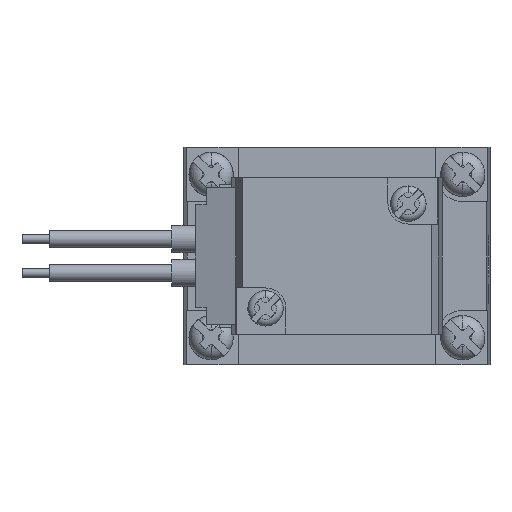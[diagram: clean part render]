
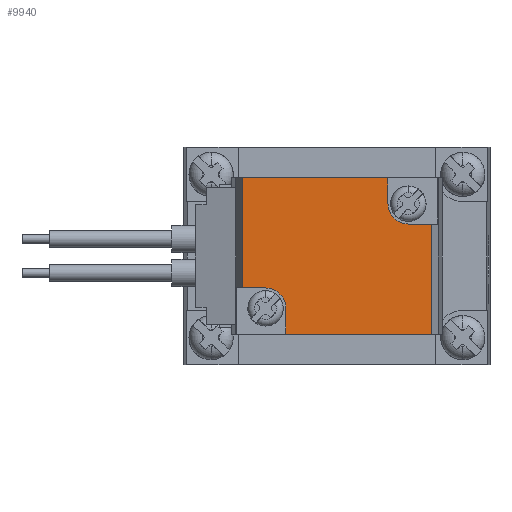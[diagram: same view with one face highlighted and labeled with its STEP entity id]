
A CAD part, left-side view. The second image highlights one B-rep face of the part: STEP entity #9940.
In plain terms, the highlighted planar face has unit normal (-1, 0, 0).
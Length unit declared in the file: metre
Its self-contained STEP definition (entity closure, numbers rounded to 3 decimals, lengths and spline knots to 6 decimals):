
#339 = CARTESIAN_POINT ( 'NONE',  ( -0.0978, 0.03, 0. ) ) ;
#690 = VECTOR ( 'NONE', #9377, 1. ) ;
#1838 = LINE ( 'NONE', #7402, #7997 ) ;
#1874 = VERTEX_POINT ( 'NONE', #11427 ) ;
#1912 = EDGE_CURVE ( 'NONE', #3841, #8298, #30259, .T. ) ;
#2202 = VERTEX_POINT ( 'NONE', #22054 ) ;
#2492 = CARTESIAN_POINT ( 'NONE',  ( -0.0978, 0.0225, 0.0115 ) ) ;
#2677 = DIRECTION ( 'NONE',  ( 0., 0., -1. ) ) ;
#3841 = VERTEX_POINT ( 'NONE', #22750 ) ;
#4031 = CARTESIAN_POINT ( 'NONE',  ( -0.0978, 0.0364, 0. ) ) ;
#4274 = VERTEX_POINT ( 'NONE', #12667 ) ;
#5382 = ORIENTED_EDGE ( 'NONE', *, *, #26608, .T. ) ;
#5626 = LINE ( 'NONE', #28870, #29748 ) ;
#5818 = CARTESIAN_POINT ( 'NONE',  ( -0.0978, 0.012, 0.0077 ) ) ;
#5822 = VECTOR ( 'NONE', #30120, 1. ) ;
#6329 = VERTEX_POINT ( 'NONE', #21715 ) ;
#6715 = DIRECTION ( 'NONE',  ( -1., 0., 0. ) ) ;
#7402 = CARTESIAN_POINT ( 'NONE',  ( -0.0978, 0.008598, 0. ) ) ;
#7997 = VECTOR ( 'NONE', #23733, 1. ) ;
#8007 = CIRCLE ( 'NONE', #13423, 0.003 ) ;
#8139 = DIRECTION ( 'NONE',  ( 0., 0., 1. ) ) ;
#8248 = FACE_OUTER_BOUND ( 'NONE', #16131, .T. ) ;
#8292 = CARTESIAN_POINT ( 'NONE',  ( -0.0978, 0.015, 0.0096 ) ) ;
#8295 = CARTESIAN_POINT ( 'NONE',  ( -0.0978, 0.033, -0.0077 ) ) ;
#8298 = VERTEX_POINT ( 'NONE', #29154 ) ;
#8324 = EDGE_CURVE ( 'NONE', #1874, #28893, #8007, .T. ) ;
#8689 = DIRECTION ( 'NONE',  ( 0., 0., -1. ) ) ;
#9029 = EDGE_CURVE ( 'NONE', #6329, #1874, #29931, .T. ) ;
#9377 = DIRECTION ( 'NONE',  ( 0., -1., 0. ) ) ;
#9576 = VECTOR ( 'NONE', #2677, 1. ) ;
#9839 = EDGE_CURVE ( 'NONE', #4274, #17973, #11170, .T. ) ;
#9940 = ADVANCED_FACE ( 'NONE', ( #8248 ), #20613, .T. ) ;
#10057 = ORIENTED_EDGE ( 'NONE', *, *, #25699, .T. ) ;
#10627 = DIRECTION ( 'NONE',  ( 0., 0., 1. ) ) ;
#11170 = LINE ( 'NONE', #17977, #29098 ) ;
#11226 = CARTESIAN_POINT ( 'NONE',  ( -0.0978, 0.008598, -0.0115 ) ) ;
#11427 = CARTESIAN_POINT ( 'NONE',  ( -0.0978, 0.033, -0.0047 ) ) ;
#11977 = LINE ( 'NONE', #8292, #29932 ) ;
#12667 = CARTESIAN_POINT ( 'NONE',  ( -0.0978, 0.03, -0.0115 ) ) ;
#12911 = VERTEX_POINT ( 'NONE', #15582 ) ;
#13423 = AXIS2_PLACEMENT_3D ( 'NONE', #8295, #24635, #10627 ) ;
#13760 = CARTESIAN_POINT ( 'NONE',  ( -0.0978, 0.022499, -0.0047 ) ) ;
#13916 = VECTOR ( 'NONE', #8689, 1. ) ;
#14295 = ORIENTED_EDGE ( 'NONE', *, *, #9839, .T. ) ;
#14332 = ORIENTED_EDGE ( 'NONE', *, *, #21005, .T. ) ;
#14457 = ORIENTED_EDGE ( 'NONE', *, *, #29446, .F. ) ;
#14652 = LINE ( 'NONE', #4031, #13916 ) ;
#14887 = DIRECTION ( 'NONE',  ( 0., 1., 0. ) ) ;
#15237 = AXIS2_PLACEMENT_3D ( 'NONE', #20718, #6715, #23051 ) ;
#15582 = CARTESIAN_POINT ( 'NONE',  ( -0.0978, 0.008598, 0.0047 ) ) ;
#16131 = EDGE_LOOP ( 'NONE', ( #17442, #28694, #10057, #14295, #30004, #14332, #19606, #14457, #16312, #5382 ) ) ;
#16312 = ORIENTED_EDGE ( 'NONE', *, *, #1912, .F. ) ;
#16980 = EDGE_CURVE ( 'NONE', #17973, #12911, #1838, .T. ) ;
#17104 = AXIS2_PLACEMENT_3D ( 'NONE', #5818, #22146, #8139 ) ;
#17442 = ORIENTED_EDGE ( 'NONE', *, *, #9029, .T. ) ;
#17973 = VERTEX_POINT ( 'NONE', #11226 ) ;
#17977 = CARTESIAN_POINT ( 'NONE',  ( -0.0978, 0.022499, -0.0115 ) ) ;
#18319 = EDGE_CURVE ( 'NONE', #27868, #2202, #22930, .T. ) ;
#19606 = ORIENTED_EDGE ( 'NONE', *, *, #18319, .T. ) ;
#19735 = CARTESIAN_POINT ( 'NONE',  ( -0.0978, 0.012, 0.0047 ) ) ;
#20330 = DIRECTION ( 'NONE',  ( 0., -1., 0. ) ) ;
#20613 = PLANE ( 'NONE',  #15237 ) ;
#20718 = CARTESIAN_POINT ( 'NONE',  ( -0.0978, 0.008598, 0.0115 ) ) ;
#21005 = EDGE_CURVE ( 'NONE', #12911, #27868, #5626, .T. ) ;
#21715 = CARTESIAN_POINT ( 'NONE',  ( -0.0978, 0.0364, -0.0047 ) ) ;
#22054 = CARTESIAN_POINT ( 'NONE',  ( -0.0978, 0.015, 0.0077 ) ) ;
#22146 = DIRECTION ( 'NONE',  ( 1., 0., 0. ) ) ;
#22393 = DIRECTION ( 'NONE',  ( 0., 0., -1. ) ) ;
#22750 = CARTESIAN_POINT ( 'NONE',  ( -0.0978, 0.0364, 0.0115 ) ) ;
#22930 = CIRCLE ( 'NONE', #17104, 0.003 ) ;
#23051 = DIRECTION ( 'NONE',  ( 0., 1., 0. ) ) ;
#23471 = LINE ( 'NONE', #339, #9576 ) ;
#23733 = DIRECTION ( 'NONE',  ( 0., 0., 1. ) ) ;
#24635 = DIRECTION ( 'NONE',  ( 1., 0., 0. ) ) ;
#25699 = EDGE_CURVE ( 'NONE', #28893, #4274, #23471, .T. ) ;
#26305 = CARTESIAN_POINT ( 'NONE',  ( -0.0978, 0.03, -0.0077 ) ) ;
#26608 = EDGE_CURVE ( 'NONE', #3841, #6329, #14652, .T. ) ;
#27868 = VERTEX_POINT ( 'NONE', #19735 ) ;
#28694 = ORIENTED_EDGE ( 'NONE', *, *, #8324, .T. ) ;
#28870 = CARTESIAN_POINT ( 'NONE',  ( -0.0978, 0.022499, 0.0047 ) ) ;
#28893 = VERTEX_POINT ( 'NONE', #26305 ) ;
#29098 = VECTOR ( 'NONE', #20330, 1. ) ;
#29154 = CARTESIAN_POINT ( 'NONE',  ( -0.0978, 0.015, 0.0115 ) ) ;
#29446 = EDGE_CURVE ( 'NONE', #8298, #2202, #11977, .T. ) ;
#29748 = VECTOR ( 'NONE', #14887, 1. ) ;
#29931 = LINE ( 'NONE', #13760, #5822 ) ;
#29932 = VECTOR ( 'NONE', #22393, 1. ) ;
#30004 = ORIENTED_EDGE ( 'NONE', *, *, #16980, .T. ) ;
#30120 = DIRECTION ( 'NONE',  ( 0., -1., 0. ) ) ;
#30259 = LINE ( 'NONE', #2492, #690 ) ;
